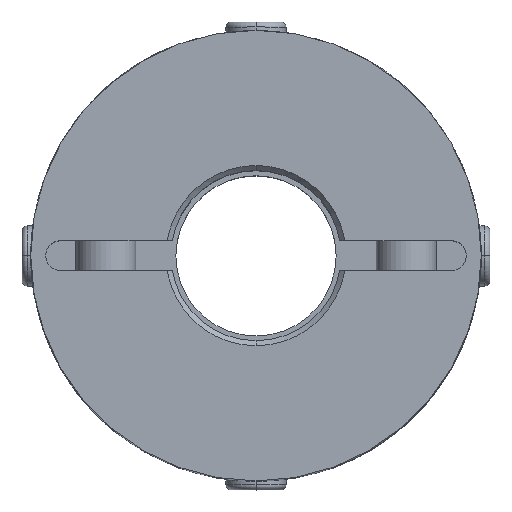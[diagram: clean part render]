
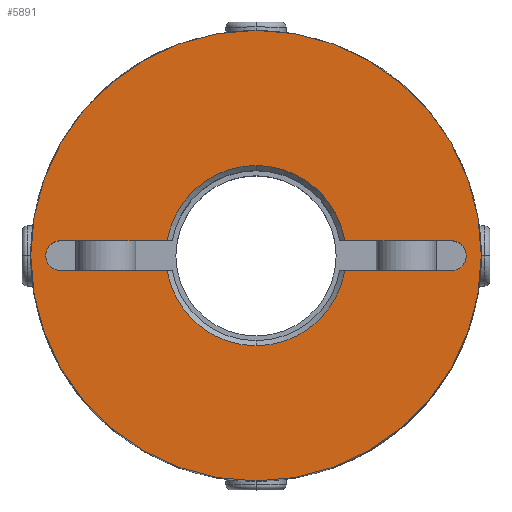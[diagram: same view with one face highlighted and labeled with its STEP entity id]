
A CAD part, top view. The second image highlights one B-rep face of the part: STEP entity #5891.
In plain terms, the highlighted planar face has unit normal (0, 0, 1).
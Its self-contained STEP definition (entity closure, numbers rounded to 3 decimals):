
#2768=CARTESIAN_POINT('',(0.,22.5,22.5));
#2769=VERTEX_POINT('',#2768);
#2776=CARTESIAN_POINT('',(0.,-22.5,22.5));
#2777=VERTEX_POINT('',#2776);
#2778=CARTESIAN_POINT('',(0.0,0.0,22.5));
#2779=DIRECTION('',(0.0,0.0,-1.0));
#2780=DIRECTION('',(0.0,-1.0,0.0));
#2781=AXIS2_PLACEMENT_3D('',#2778,#2779,#2780);
#2782=CIRCLE('',#2781,22.5);
#2783=EDGE_CURVE('',#2769,#2777,#2782,.T.);
#3094=CARTESIAN_POINT('',(20.561,1.061,22.5));
#3095=VERTEX_POINT('',#3094);
#3111=CARTESIAN_POINT('',(19.5,-1.5,22.5));
#3112=VERTEX_POINT('',#3111);
#3119=CARTESIAN_POINT('',(19.5,0.,22.5));
#3120=DIRECTION('',(0.0,0.0,1.0));
#3121=DIRECTION('',(0.707,-0.707,0.0));
#3122=AXIS2_PLACEMENT_3D('',#3119,#3120,#3121);
#3123=CIRCLE('',#3122,1.5);
#3124=EDGE_CURVE('',#3112,#3095,#3123,.T.);
#3136=CARTESIAN_POINT('',(-20.561,-1.061,22.5));
#3137=VERTEX_POINT('',#3136);
#3153=CARTESIAN_POINT('',(-19.5,1.5,22.5));
#3154=VERTEX_POINT('',#3153);
#3161=CARTESIAN_POINT('',(-19.5,0.,22.5));
#3162=DIRECTION('',(0.0,0.0,1.0));
#3163=DIRECTION('',(-0.707,0.707,0.0));
#3164=AXIS2_PLACEMENT_3D('',#3161,#3162,#3163);
#3165=CIRCLE('',#3164,1.5);
#3166=EDGE_CURVE('',#3154,#3137,#3165,.T.);
#3886=CARTESIAN_POINT('',(0.,9.0,22.5));
#3887=VERTEX_POINT('',#3886);
#3895=CARTESIAN_POINT('',(8.874,1.5,22.5));
#3896=VERTEX_POINT('',#3895);
#3910=CARTESIAN_POINT('',(0.0,0.0,22.5));
#3911=DIRECTION('',(0.0,0.0,1.0));
#3912=DIRECTION('',(0.0,1.0,0.0));
#3913=AXIS2_PLACEMENT_3D('',#3910,#3911,#3912);
#3914=CIRCLE('',#3913,9.0);
#3915=EDGE_CURVE('',#3896,#3887,#3914,.T.);
#3925=CARTESIAN_POINT('',(0.,-9.0,22.5));
#3926=VERTEX_POINT('',#3925);
#3942=CARTESIAN_POINT('',(-8.874,-1.5,22.5));
#3943=VERTEX_POINT('',#3942);
#3957=CARTESIAN_POINT('',(0.0,0.0,22.5));
#3958=DIRECTION('',(0.0,0.0,1.0));
#3959=DIRECTION('',(0.0,-1.0,0.0));
#3960=AXIS2_PLACEMENT_3D('',#3957,#3958,#3959);
#3961=CIRCLE('',#3960,9.0);
#3962=EDGE_CURVE('',#3943,#3926,#3961,.T.);
#5629=CARTESIAN_POINT('',(19.5,1.5,22.5));
#5630=VERTEX_POINT('',#5629);
#5637=CARTESIAN_POINT('',(8.874,1.5,22.5));
#5638=DIRECTION('',(1.0,0.0,0.0));
#5639=VECTOR('',#5638,10.626);
#5640=LINE('',#5637,#5639);
#5641=EDGE_CURVE('',#3896,#5630,#5640,.T.);
#5776=CARTESIAN_POINT('',(8.874,-1.5,22.5));
#5777=VERTEX_POINT('',#5776);
#5791=CARTESIAN_POINT('',(19.5,-1.5,22.5));
#5792=DIRECTION('',(-1.0,0.0,0.0));
#5793=VECTOR('',#5792,10.626);
#5794=LINE('',#5791,#5793);
#5795=EDGE_CURVE('',#3112,#5777,#5794,.T.);
#5818=CARTESIAN_POINT('',(0.0,0.0,22.5));
#5819=DIRECTION('',(0.0,0.0,1.0));
#5820=DIRECTION('',(0.0,-1.0,0.0));
#5821=AXIS2_PLACEMENT_3D('',#5818,#5819,#5820);
#5822=CIRCLE('',#5821,9.0);
#5823=EDGE_CURVE('',#3926,#5777,#5822,.T.);
#5830=CARTESIAN_POINT('',(0.,-2.045,22.5));
#5831=DIRECTION('',(0.0,0.0,1.0));
#5832=DIRECTION('',(0.0,-1.0,0.0));
#5833=AXIS2_PLACEMENT_3D('',#5830,#5831,#5832);
#5834=PLANE('',#5833);
#5835=CARTESIAN_POINT('',(0.0,0.0,22.5));
#5836=DIRECTION('',(0.0,0.0,-1.0));
#5837=DIRECTION('',(0.0,-1.0,0.0));
#5838=AXIS2_PLACEMENT_3D('',#5835,#5836,#5837);
#5839=CIRCLE('',#5838,22.5);
#5840=EDGE_CURVE('',#2777,#2769,#5839,.T.);
#5841=ORIENTED_EDGE('',*,*,#5840,.F.);
#5842=ORIENTED_EDGE('',*,*,#2783,.F.);
#5843=EDGE_LOOP('',(#5841,#5842));
#5844=FACE_OUTER_BOUND('',#5843,.T.);
#5845=ORIENTED_EDGE('',*,*,#3962,.F.);
#5846=CARTESIAN_POINT('',(-19.5,-1.5,22.5));
#5847=VERTEX_POINT('',#5846);
#5848=CARTESIAN_POINT('',(-8.874,-1.5,22.5));
#5849=DIRECTION('',(-1.0,0.0,0.0));
#5850=VECTOR('',#5849,10.626);
#5851=LINE('',#5848,#5850);
#5852=EDGE_CURVE('',#3943,#5847,#5851,.T.);
#5853=ORIENTED_EDGE('',*,*,#5852,.T.);
#5854=CARTESIAN_POINT('',(-19.5,0.,22.5));
#5855=DIRECTION('',(0.0,0.0,1.0));
#5856=DIRECTION('',(-0.707,0.707,0.0));
#5857=AXIS2_PLACEMENT_3D('',#5854,#5855,#5856);
#5858=CIRCLE('',#5857,1.5);
#5859=EDGE_CURVE('',#3137,#5847,#5858,.T.);
#5860=ORIENTED_EDGE('',*,*,#5859,.F.);
#5861=ORIENTED_EDGE('',*,*,#3166,.F.);
#5862=CARTESIAN_POINT('',(-8.874,1.5,22.5));
#5863=VERTEX_POINT('',#5862);
#5864=CARTESIAN_POINT('',(-19.5,1.5,22.5));
#5865=DIRECTION('',(1.0,0.0,0.0));
#5866=VECTOR('',#5865,10.626);
#5867=LINE('',#5864,#5866);
#5868=EDGE_CURVE('',#3154,#5863,#5867,.T.);
#5869=ORIENTED_EDGE('',*,*,#5868,.T.);
#5870=CARTESIAN_POINT('',(0.0,0.0,22.5));
#5871=DIRECTION('',(0.0,0.0,1.0));
#5872=DIRECTION('',(0.0,1.0,0.0));
#5873=AXIS2_PLACEMENT_3D('',#5870,#5871,#5872);
#5874=CIRCLE('',#5873,9.0);
#5875=EDGE_CURVE('',#3887,#5863,#5874,.T.);
#5876=ORIENTED_EDGE('',*,*,#5875,.F.);
#5877=ORIENTED_EDGE('',*,*,#3915,.F.);
#5878=ORIENTED_EDGE('',*,*,#5641,.T.);
#5879=CARTESIAN_POINT('',(19.5,0.,22.5));
#5880=DIRECTION('',(0.0,0.0,1.0));
#5881=DIRECTION('',(0.707,-0.707,0.0));
#5882=AXIS2_PLACEMENT_3D('',#5879,#5880,#5881);
#5883=CIRCLE('',#5882,1.5);
#5884=EDGE_CURVE('',#3095,#5630,#5883,.T.);
#5885=ORIENTED_EDGE('',*,*,#5884,.F.);
#5886=ORIENTED_EDGE('',*,*,#3124,.F.);
#5887=ORIENTED_EDGE('',*,*,#5795,.T.);
#5888=ORIENTED_EDGE('',*,*,#5823,.F.);
#5889=EDGE_LOOP('',(#5845,#5853,#5860,#5861,#5869,#5876,#5877,#5878,#5885,#5886,#5887,#5888));
#5890=FACE_BOUND('',#5889,.T.);
#5891=ADVANCED_FACE('',(#5844,#5890),#5834,.T.);
